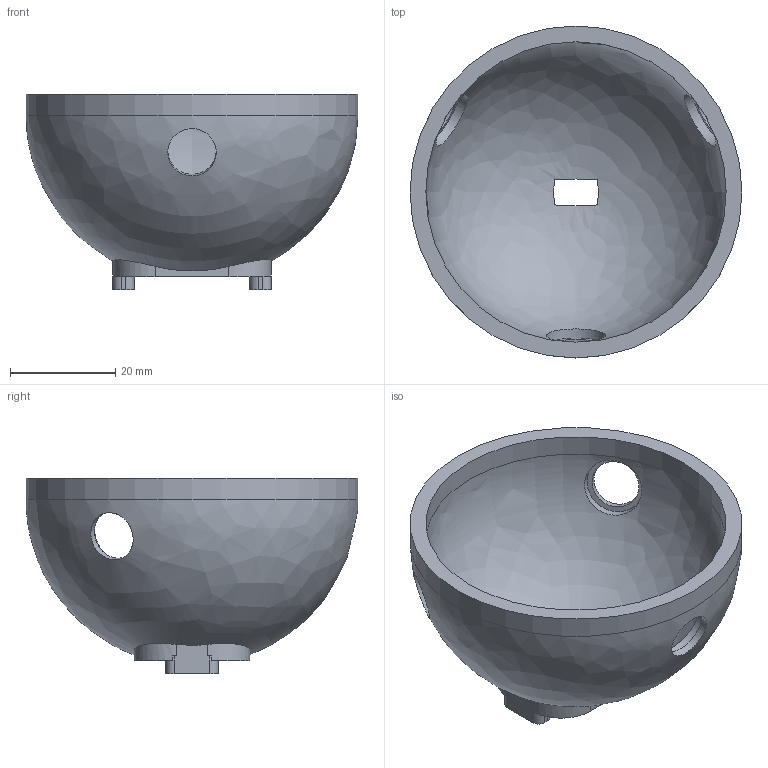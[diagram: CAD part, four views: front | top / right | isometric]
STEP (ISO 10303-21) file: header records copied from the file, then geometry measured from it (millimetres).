
FILE_DESCRIPTION(('Open CASCADE Model'),'2;1');
FILE_NAME('Open CASCADE Shape Model','2026-05-31T19:43:42',('Author'),( 'Open CASCADE'),'Open CASCADE STEP processor 7.6','Open CASCADE 7.6' ,'Unknown');
FILE_SCHEMA(('AP242_MANAGED_MODEL_BASED_3D_ENGINEERING_MIM_LF. {1 0 10303 442 1 1 4 }'));
Length unit declared in the file: millimetre
Products named in the file (1): Open CASCADE STEP translator 7.6 23
Bounding box: 63 x 63 x 37.1 mm (x, y, z)
Volume: 18667.8 mm3; surface area: 13714.9 mm2
Topology: 1 solids, 1 shells, 71 faces, 194 edges, 128 vertices
Faces by surface type: plane 35, cylinder 28, bspline 4, revolution 2, cone 2
Full cylindrical faces by diameter (mm): 2.05 x2, 9.2 x3, 11.2 x3, 57 x1, 63 x1
Entity records: 7968 total; most frequent: CARTESIAN_POINT 4150, DIRECTION 702, ORIENTED_EDGE 384, PCURVE 384, DEFINITIONAL_REPRESENTATION 384, LINE 382, VECTOR 382, EDGE_CURVE 192
